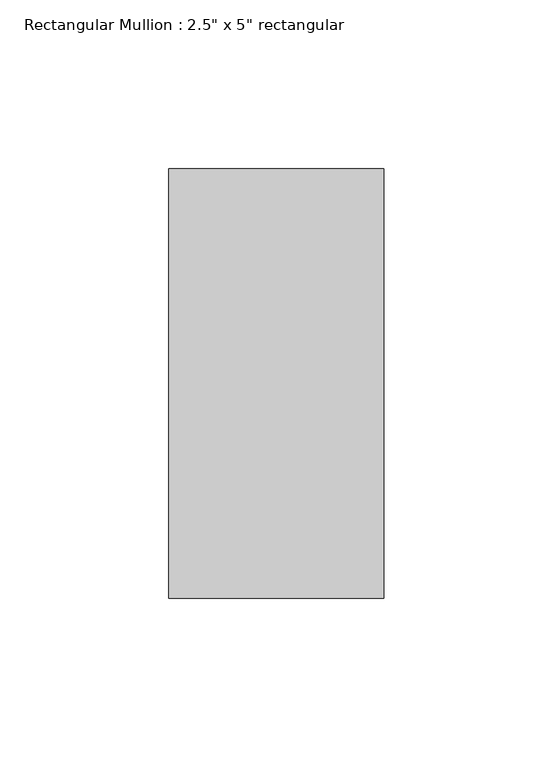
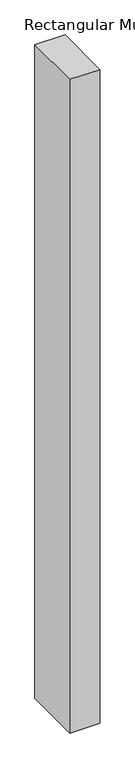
"""IFC4 building model written with IfcOpenShell, lengths in millimetres: member geometry."""

from ifc_helpers import new_model, si_unit, frame, origin, place, context, project, spatial, polyline, outline, extrude, source, transform, mapped, element, save


def member_488b55c0(model_context):
    return source(origin(), model_context, "Body", "SweptSolid", [
        extrude(outline(polyline([(0.0, 50.8), (0.0, -76.2), (-63.5, -76.2), (-63.5, 50.8), (0.0, 50.8)])), frame((0.0, 0.0, -1455.0571429), z_axis=(0.0, 0.0, 1.0), x_axis=(1.0, 0.0, 0.0)), (0.0, 0.0, 1.0), 1455.0571429),
    ])


if __name__ == "__main__":
    model = new_model("IFC4")
    model_context = context("Model", 3, world=origin())
    ifc_project = project(units=[si_unit("LENGTHUNIT", "METRE", prefix="MILLI")], contexts=[model_context])
    site = spatial("IfcSite", under=ifc_project)
    building = spatial("IfcBuilding", under=site)
    placement = place(None, origin())
    member_shape = member_488b55c0(model_context)
    element("IfcMember", 1, ObjectType="Rectangular Mullion : 2.5\" x 5\" rectangular", at=placement, inside=building, context=model_context, shape_type="MappedRepresentation", body=[
        mapped(member_shape, transform((0.0, 0.0, 0.0), x_axis=(1.0, 0.0, 0.0), y_axis=(0.0, 1.0, 0.0), z_axis=(0.0, 0.0, 1.0))),
    ])
    save(model, "model.ifc")
